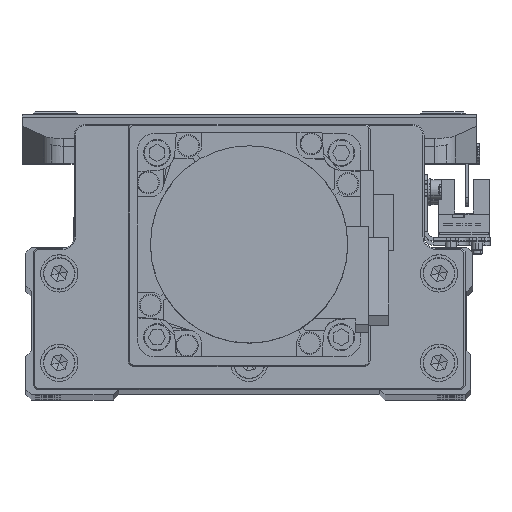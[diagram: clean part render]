
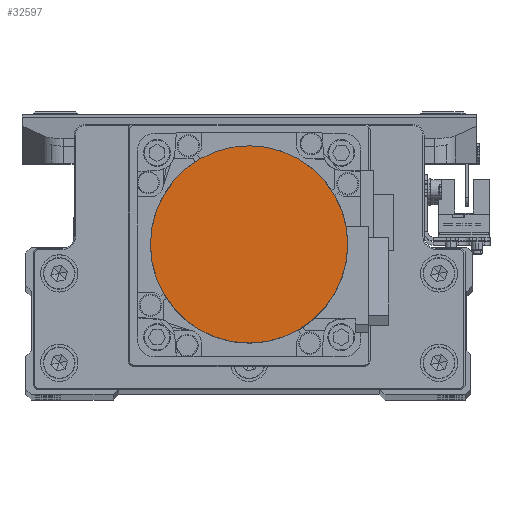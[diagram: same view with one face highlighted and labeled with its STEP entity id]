
A CAD part, top view. The second image highlights one B-rep face of the part: STEP entity #32597.
In plain terms, the highlighted planar face has unit normal (0, 0, 1) as drawn and (0, 0, -1) by its records, which use the part's own axes.
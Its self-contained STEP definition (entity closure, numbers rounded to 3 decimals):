
#397 = CIRCLE ( 'NONE', #25508, 26.5 ) ;
#1622 = DIRECTION ( 'NONE',  ( 1., 0., 0. ) ) ;
#3360 = CARTESIAN_POINT ( 'NONE',  ( 0., 0., -109.7 ) ) ;
#5649 = DIRECTION ( 'NONE',  ( 1., 0., 0. ) ) ;
#5785 = AXIS2_PLACEMENT_3D ( 'NONE', #3360, #17068, #30737 ) ;
#9011 = CARTESIAN_POINT ( 'NONE',  ( 26.5, 0., -109.7 ) ) ;
#9036 = PLANE ( 'NONE',  #40158 ) ;
#14177 = ORIENTED_EDGE ( 'NONE', *, *, #30207, .F. ) ;
#17068 = DIRECTION ( 'NONE',  ( 0., 0., 1. ) ) ;
#18690 = CARTESIAN_POINT ( 'NONE',  ( 0., 0., -109.7 ) ) ;
#21932 = EDGE_LOOP ( 'NONE', ( #14177, #33913 ) ) ;
#22705 = CARTESIAN_POINT ( 'NONE',  ( 0., 0., -109.7 ) ) ;
#25147 = CIRCLE ( 'NONE', #5785, 26.5 ) ;
#25508 = AXIS2_PLACEMENT_3D ( 'NONE', #18690, #32349, #1622 ) ;
#26169 = VERTEX_POINT ( 'NONE', #32724 ) ;
#28741 = VERTEX_POINT ( 'NONE', #9011 ) ;
#30207 = EDGE_CURVE ( 'NONE', #26169, #28741, #25147, .T. ) ;
#30737 = DIRECTION ( 'NONE',  ( -1., 0., 0. ) ) ;
#31781 = EDGE_CURVE ( 'NONE', #28741, #26169, #397, .T. ) ;
#32349 = DIRECTION ( 'NONE',  ( 0., 0., 1. ) ) ;
#32597 = ADVANCED_FACE ( 'NONE', ( #39744 ), #9036, .F. ) ;
#32724 = CARTESIAN_POINT ( 'NONE',  ( -26.5, 0., -109.7 ) ) ;
#33913 = ORIENTED_EDGE ( 'NONE', *, *, #31781, .F. ) ;
#36370 = DIRECTION ( 'NONE',  ( 0., 0., 1. ) ) ;
#39744 = FACE_OUTER_BOUND ( 'NONE', #21932, .T. ) ;
#40158 = AXIS2_PLACEMENT_3D ( 'NONE', #22705, #36370, #5649 ) ;
